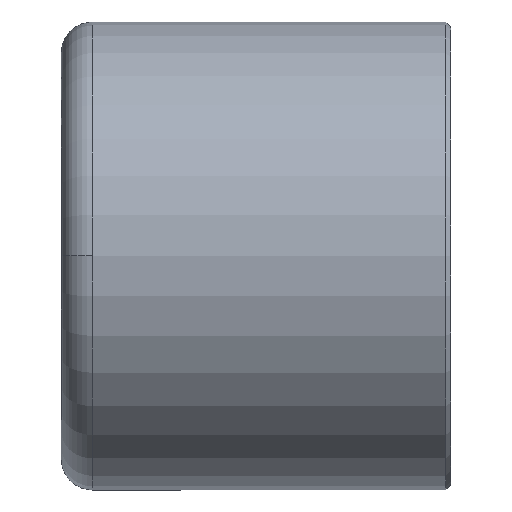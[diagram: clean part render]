
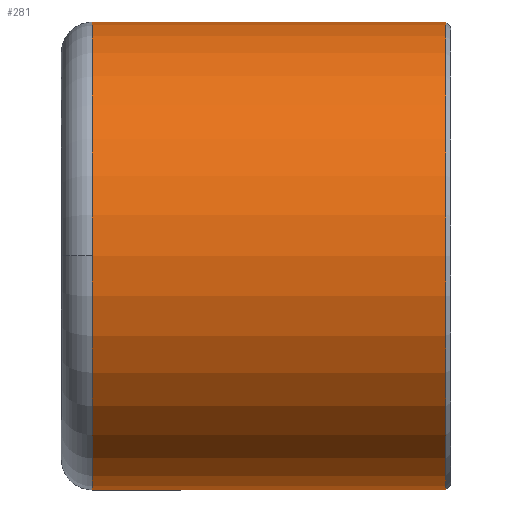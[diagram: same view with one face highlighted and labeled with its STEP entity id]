
A CAD part, top view. The second image highlights one B-rep face of the part: STEP entity #281.
In plain terms, the highlighted cylindrical face has radius 9.8 mm (diameter 19.6 mm), a partial arc.
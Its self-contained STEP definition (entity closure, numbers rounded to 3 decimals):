
#78=CARTESIAN_POINT('',(-7.25,0.,9.8));
#79=VERTEX_POINT('',#78);
#87=CARTESIAN_POINT('',(-7.25,9.8,0.0));
#88=VERTEX_POINT('',#87);
#89=CARTESIAN_POINT('',(-7.25,0.,0.0));
#90=DIRECTION('',(1.0,0.0,0.0));
#91=DIRECTION('',(0.0,1.0,0.0));
#92=AXIS2_PLACEMENT_3D('',#89,#90,#91);
#93=CIRCLE('',#92,9.8);
#94=EDGE_CURVE('',#88,#79,#93,.T.);
#241=CARTESIAN_POINT('',(0.25,0.,0.0));
#242=DIRECTION('',(1.0,0.,0.0));
#243=DIRECTION('',(0.0,1.0,0.0));
#244=AXIS2_PLACEMENT_3D('',#241,#242,#243);
#245=CYLINDRICAL_SURFACE('',#244,9.8);
#246=CARTESIAN_POINT('',(7.55,9.8,0.));
#247=VERTEX_POINT('',#246);
#248=CARTESIAN_POINT('',(-7.25,9.8,0.0));
#249=DIRECTION('',(1.0,0.0,0.0));
#250=VECTOR('',#249,14.8);
#251=LINE('',#248,#250);
#252=EDGE_CURVE('',#88,#247,#251,.T.);
#253=ORIENTED_EDGE('',*,*,#252,.F.);
#254=ORIENTED_EDGE('',*,*,#94,.T.);
#255=CARTESIAN_POINT('',(-7.25,-9.8,0.));
#256=VERTEX_POINT('',#255);
#257=CARTESIAN_POINT('',(-7.25,0.,0.0));
#258=DIRECTION('',(1.0,0.0,0.0));
#259=DIRECTION('',(0.0,1.0,0.0));
#260=AXIS2_PLACEMENT_3D('',#257,#258,#259);
#261=CIRCLE('',#260,9.8);
#262=EDGE_CURVE('',#79,#256,#261,.T.);
#263=ORIENTED_EDGE('',*,*,#262,.T.);
#264=CARTESIAN_POINT('',(7.55,-9.8,0.));
#265=VERTEX_POINT('',#264);
#266=CARTESIAN_POINT('',(7.55,-9.8,0.));
#267=DIRECTION('',(-1.0,0.0,0.0));
#268=VECTOR('',#267,14.8);
#269=LINE('',#266,#268);
#270=EDGE_CURVE('',#265,#256,#269,.T.);
#271=ORIENTED_EDGE('',*,*,#270,.F.);
#272=CARTESIAN_POINT('',(7.55,0.,0.0));
#273=DIRECTION('',(1.0,0.0,0.0));
#274=DIRECTION('',(0.0,1.0,0.0));
#275=AXIS2_PLACEMENT_3D('',#272,#273,#274);
#276=CIRCLE('',#275,9.8);
#277=EDGE_CURVE('',#247,#265,#276,.T.);
#278=ORIENTED_EDGE('',*,*,#277,.F.);
#279=EDGE_LOOP('',(#253,#254,#263,#271,#278));
#280=FACE_OUTER_BOUND('',#279,.T.);
#281=ADVANCED_FACE('',(#280),#245,.T.);
